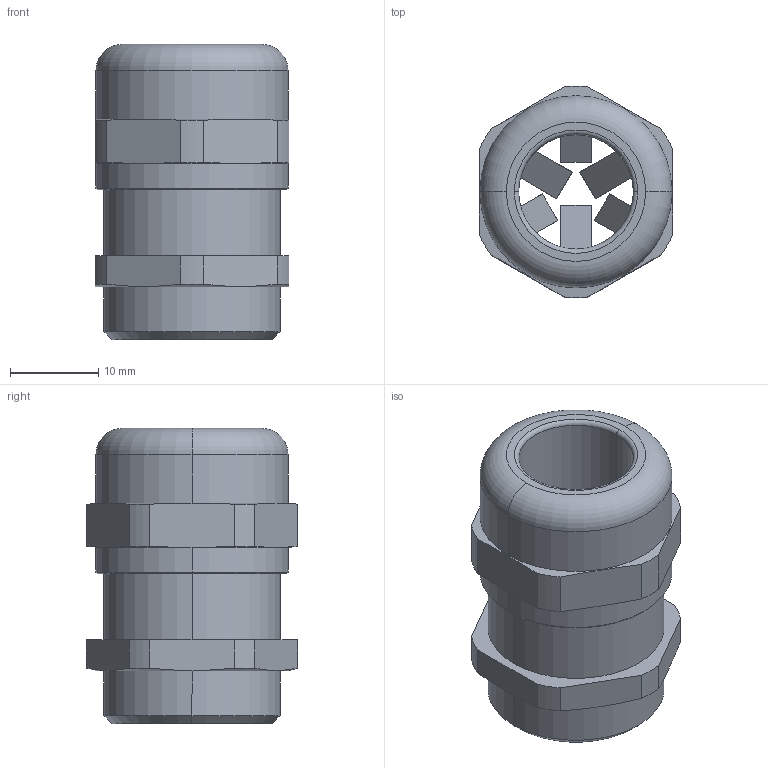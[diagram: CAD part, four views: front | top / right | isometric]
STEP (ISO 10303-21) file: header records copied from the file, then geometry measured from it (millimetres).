
FILE_DESCRIPTION (( 'STEP AP203' ), '1' );
FILE_NAME ('50.620 M-EMVD.STEP', '2006-04-10T13:28:25', ( ' ' ), ( '' ), 'SwSTEP 2.0', 'SolidWorks 2005278', '' );
FILE_SCHEMA (( 'CONFIG_CONTROL_DESIGN' ));
Length unit declared in the file: millimetre
Products named in the file (1): 50.620 M-EMVD
Bounding box: 22 x 23.98 x 33.5 mm (x, y, z)
Volume: 7007.9 mm3; surface area: 4865.5 mm2
Topology: 1 solids, 1 shells, 154 faces, 402 edges, 264 vertices
Faces by surface type: plane 98, cylinder 42, cone 10, torus 4
Entity records: 4825 total; most frequent: CARTESIAN_POINT 905, ORIENTED_EDGE 804, DIRECTION 786, EDGE_CURVE 402, VECTOR 280, LINE 280, VERTEX_POINT 264, AXIS2_PLACEMENT_3D 253
